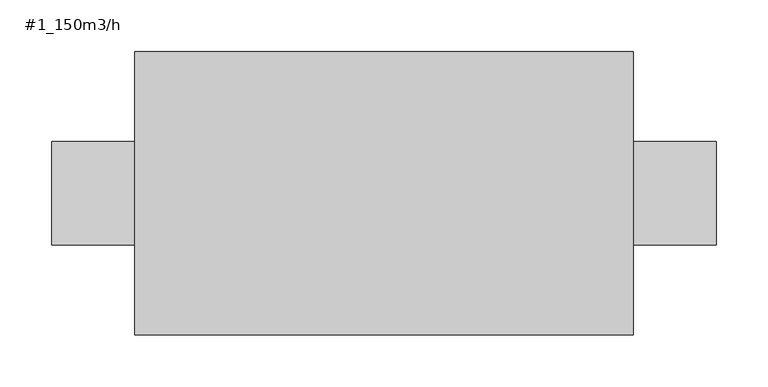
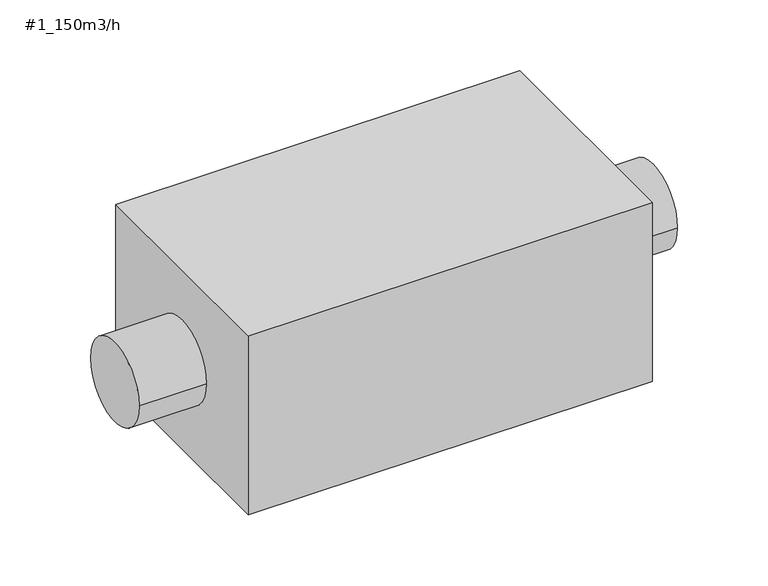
"""IFC4 building model written with IfcOpenShell, lengths in millimetres: unitary equipment geometry, 11030_FAN_消音ボックス付送風機 : #1_150m3/h."""

from ifc_helpers import new_model, si_unit, point, frame, origin, origin_2d, place, context, project, spatial, polyline, circle_curve, trimmed, segment, composite_curve, outline, extrude, source, transform, mapped, element, save


def unitary_equipment_1_150m3_h_757a065e(model_context):
    return source(origin(), model_context, "Body", "SweptSolid", [
        extrude(outline(composite_curve([segment(trimmed(circle_curve(origin_2d(), 50.0), [point((-50.0, 0.0))], [point((50.0, 0.0))], False, "CARTESIAN"), True, "CONTINUOUS"), segment(trimmed(circle_curve(origin_2d(), 50.0), [point((50.0, 0.0))], [point((-50.0, 0.0))], False, "CARTESIAN"), True, "CONTINUOUS")], self_intersect=False)), frame((-320.0, 0.0, 0.0), z_axis=(1.0, 0.0, 0.0), x_axis=(0.0, 1.0, 0.0)), (0.0, 0.0, 1.0), 80.0),
        extrude(outline(composite_curve([segment(trimmed(circle_curve(origin_2d(), 50.0), [point((-50.0, 0.0))], [point((50.0, 0.0))], False, "CARTESIAN"), True, "CONTINUOUS"), segment(trimmed(circle_curve(origin_2d(), 50.0), [point((50.0, 0.0))], [point((-50.0, 0.0))], False, "CARTESIAN"), True, "CONTINUOUS")], self_intersect=False)), frame((240.0, 0.0, 0.0), z_axis=(1.0, 0.0, 0.0), x_axis=(0.0, 1.0, 0.0)), (0.0, 0.0, 1.0), 80.0),
        extrude(outline(polyline([(240.0, -136.5), (-240.0, -136.5), (-240.0, 136.5), (240.0, 136.5), (240.0, -136.5)])), frame((0.0, 0.0, -112.5), z_axis=(0.0, 0.0, 1.0), x_axis=(1.0, 0.0, 0.0)), (0.0, 0.0, 1.0), 225.0),
    ])


if __name__ == "__main__":
    model = new_model("IFC4")
    model_context = context("Model", 3, world=origin())
    ifc_project = project(units=[si_unit("LENGTHUNIT", "METRE", prefix="MILLI")], contexts=[model_context])
    site = spatial("IfcSite", under=ifc_project)
    building = spatial("IfcBuilding", under=site)
    placement = place(None, origin())
    unitary_equipment_1_150m3_h_shape = unitary_equipment_1_150m3_h_757a065e(model_context)
    element("IfcUnitaryEquipment", 1, ObjectType="11030_FAN_消音ボックス付送風機 : #1_150m3/h", at=placement, inside=building, context=model_context, shape_type="MappedRepresentation", body=[
        mapped(unitary_equipment_1_150m3_h_shape, transform((0.0, 0.0, 0.0), x_axis=(1.0, 0.0, 0.0), y_axis=(0.0, 1.0, 0.0), z_axis=(0.0, 0.0, 1.0))),
    ])
    save(model, "model.ifc")
